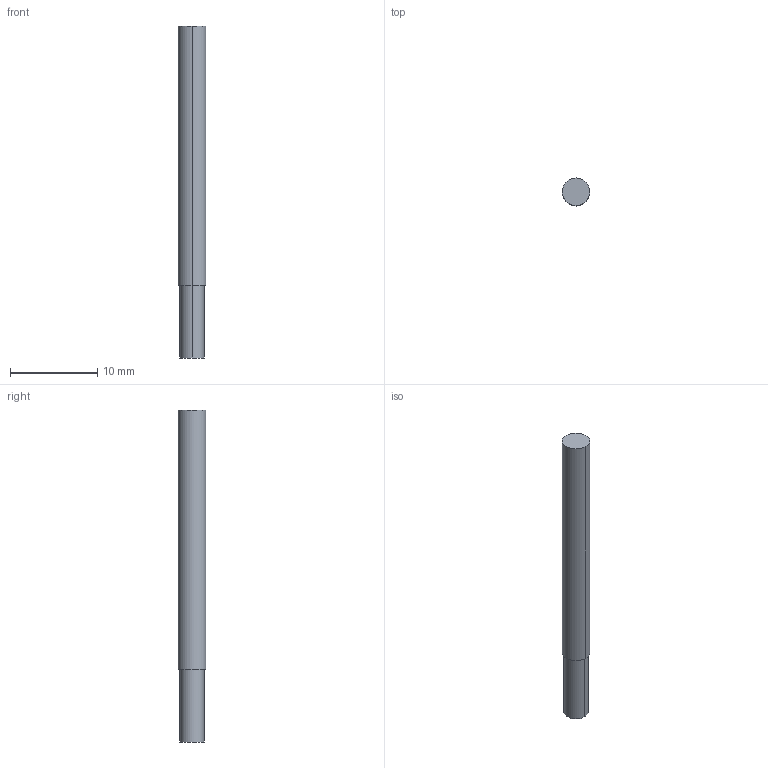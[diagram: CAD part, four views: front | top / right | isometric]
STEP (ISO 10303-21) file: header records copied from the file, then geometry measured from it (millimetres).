
FILE_DESCRIPTION((' '),'2;1');
FILE_NAME( '3MVR1094AH.stp', '2026-01-21T19:05:37', (' '), ('--- Datakit www.datakit.com---'), ' Datakit CrossCadWare V2025.4 Sep 19 2025', 'Mastercam 2027', ' ');
FILE_SCHEMA(('AUTOMOTIVE_DESIGN { 1 0 10303 214 1 1 1 1 }'));
Length unit declared in the file: inch
Products named in the file (1): 3MVR1094AH
Bounding box: 3.17 x 3.17 x 38.1 mm (x, y, z)
Volume: 286.2 mm3; surface area: 385.5 mm2
Topology: 1 solids, 1 shells, 7 faces, 12 edges, 8 vertices
Faces by surface type: cylinder 4, plane 3
Entity records: 243 total; most frequent: DIRECTION 44, CARTESIAN_POINT 32, ORIENTED_EDGE 24, AXIS2_PLACEMENT_3D 20, EDGE_CURVE 12, VERTEX_POINT 8, CIRCLE 8, EDGE_LOOP 8
